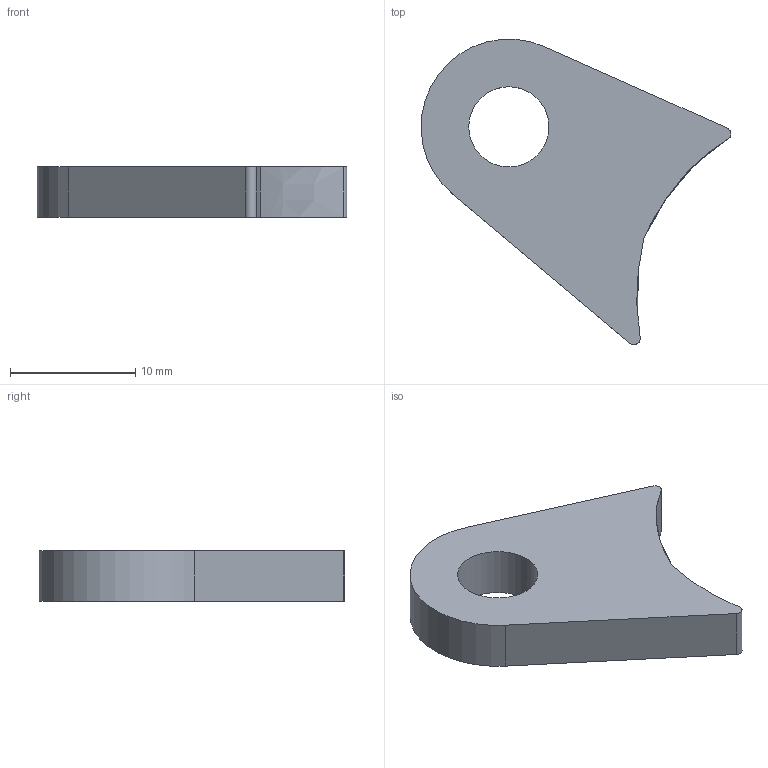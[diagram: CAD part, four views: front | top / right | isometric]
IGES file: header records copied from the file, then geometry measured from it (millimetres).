
Start section: START RECORD GO HERE.
Global section: file name: 20M_RL_TU.igs; native system: IBM CATIA IGES - CATIA Version 5 Release 19 ; preprocessor: CATIA Version 5 Release 19 ; author: alexb; organization: LAPTOP-PR6NE7IP; date: 20191216.220633; units: millimetre
Bounding box: 24.71 x 24.35 x 4 mm (x, y, z)
Surface area: 950.6 mm2 (no closed solid volume)
Topology: 0 solids, 0 shells, 12 faces, 60 edges, 62 vertices
Faces by surface type: revolution 6, plane 4, extrusion 2
